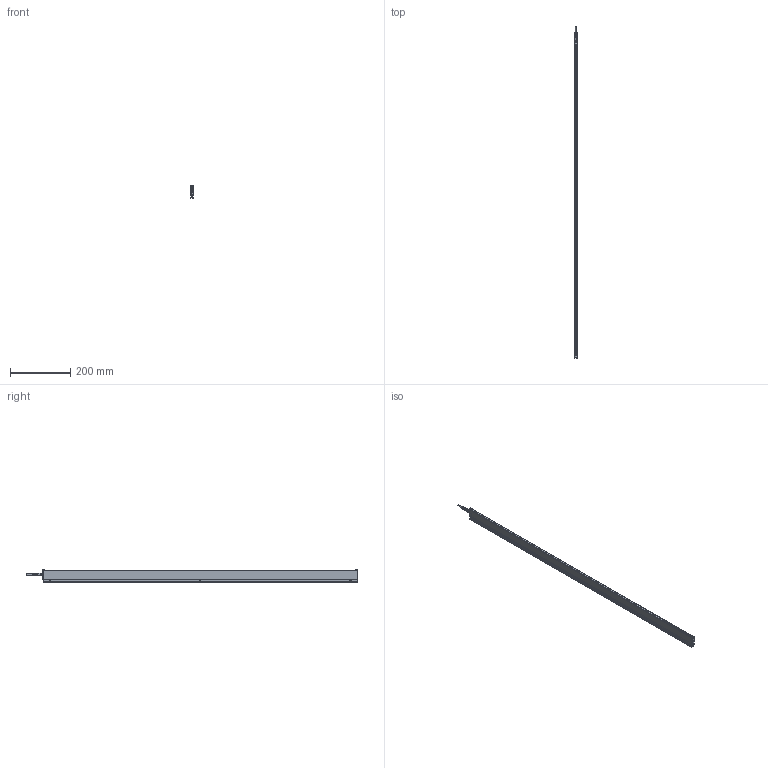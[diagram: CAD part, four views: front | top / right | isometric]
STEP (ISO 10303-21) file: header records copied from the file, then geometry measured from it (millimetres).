
FILE_DESCRIPTION (( 'STEP AP214' ), '1' );
FILE_NAME ('ILG-L-K2-1046mm.STEP', '2017-07-11T07:59:30', ( '' ), ( '' ), 'SwSTEP 2.0', 'SolidWorks 2016', '' );
FILE_SCHEMA (( 'AUTOMOTIVE_DESIGN' ));
Length unit declared in the file: millimetre
Products named in the file (1): ILG-L-K2-1046mm
Bounding box: 9 x 1100.5 x 40.71 mm (x, y, z)
Surface area: 209100.6 mm2 (no closed solid volume)
Topology: 0 solids, 13 shells, 679 faces, 1780 edges, 1131 vertices
Faces by surface type: cylinder 286, plane 255, cone 90, bspline 32, torus 16
Entity records: 30532 total; most frequent: CARTESIAN_POINT 6477, ORIENTED_EDGE 3513, DIRECTION 3392, EDGE_CURVE 1764, AXIS2_PLACEMENT_3D 1295, VERTEX_POINT 1131, VECTOR 802, LINE 802
